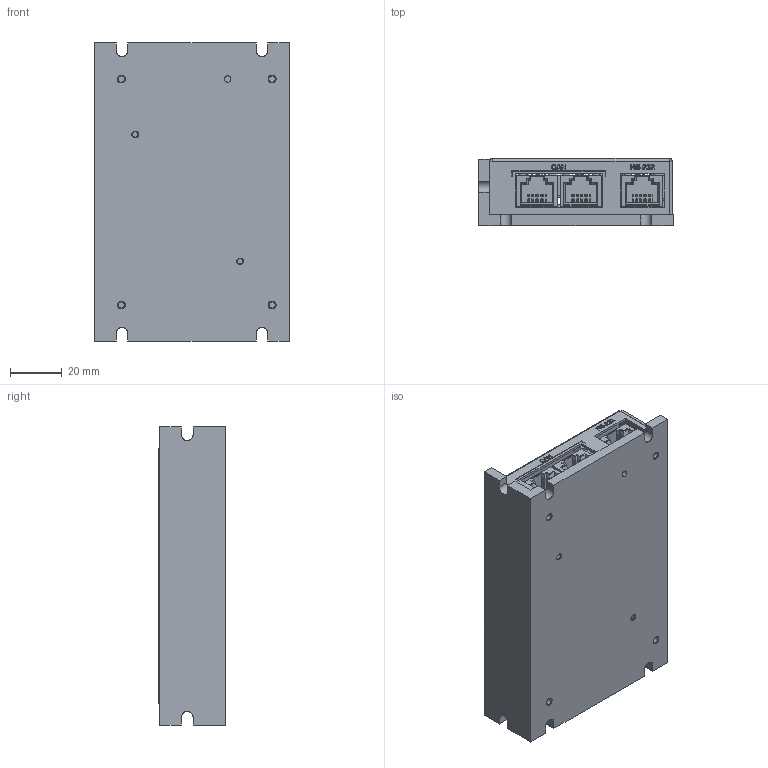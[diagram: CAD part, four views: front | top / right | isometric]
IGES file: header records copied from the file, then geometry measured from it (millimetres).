
Start section: SolidWorks IGES file using analytic representation for surfaces
Global section: file name: P:\Marketing\Manuals\DC-Whistle\Solid\DC-Whistle.IGS; native system: SolidWorks 2008; preprocessor: SolidWorks 2008; author: shlomo; date: 110721.114046; units: millimetre
Bounding box: 75 x 25.8 x 115 mm (x, y, z)
Surface area: 63517.4 mm2 (no closed solid volume)
Topology: 0 solids, 0 shells, 4422 faces, 31298 edges, 31292 vertices
Faces by surface type: bspline 3908, revolution 514
